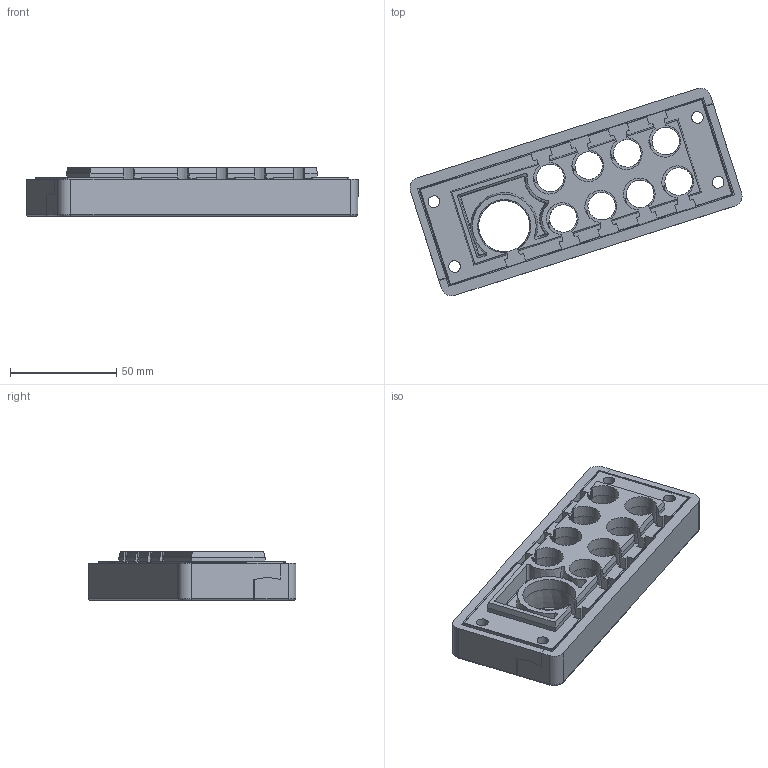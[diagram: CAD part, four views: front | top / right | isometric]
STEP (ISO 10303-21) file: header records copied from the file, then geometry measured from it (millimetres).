
FILE_DESCRIPTION(/* description */ (''),/* implementation_level */ '2;1');
FILE_NAME(/* name */ 'H:\SapWorkDir\Inventor\MP1\ConvertTempPath\87_11_121453_00_A_220620_KDL-D 24-9 ZSB.stp',/* time_stamp */ '2022-06-20T08:47:55+02:00',/* author */ ('BAUER'),/* organization */ (''),/* preprocessor_version */ 'ST-DEVELOPER v16.13',/* originating_system */ 'Autodesk Inventor 2018',/* authorisation */ '');
FILE_SCHEMA (('AUTOMOTIVE_DESIGN { 1 0 10303 214 3 1 1 }'));
Length unit declared in the file: millimetre
Products named in the file (5): 121453; 121401; 120123_Tüllenblock_2_6; 87_11_107194_A_120321_KDL-D_24_Mittelteil; 121400
Assembly tree (4 placements, depth 2):
  121453
    121401
    120123_Tüllenblock_2_6
    87_11_107194_A_120321_KDL-D_24_Mittelteil
    121400
Bounding box: 156.05 x 97.72 x 23 mm (x, y, z)
Volume: 112309.5 mm3; surface area: 60480.5 mm2
Topology: 4 solids, 4 shells, 1455 faces, 3967 edges, 2628 vertices
Faces by surface type: plane 939, bspline 231, cylinder 213, cone 54, torus 18
Full cylindrical faces by diameter (mm): 5 x6, 5.5 x10, 6 x2, 7 x4, 8 x4, 9 x4
Entity records: 48764 total; most frequent: CARTESIAN_POINT 12506, ORIENTED_EDGE 7846, DIRECTION 6659, EDGE_CURVE 3923, LINE 2709, VECTOR 2709, VERTEX_POINT 2618, AXIS2_PLACEMENT_3D 1975
